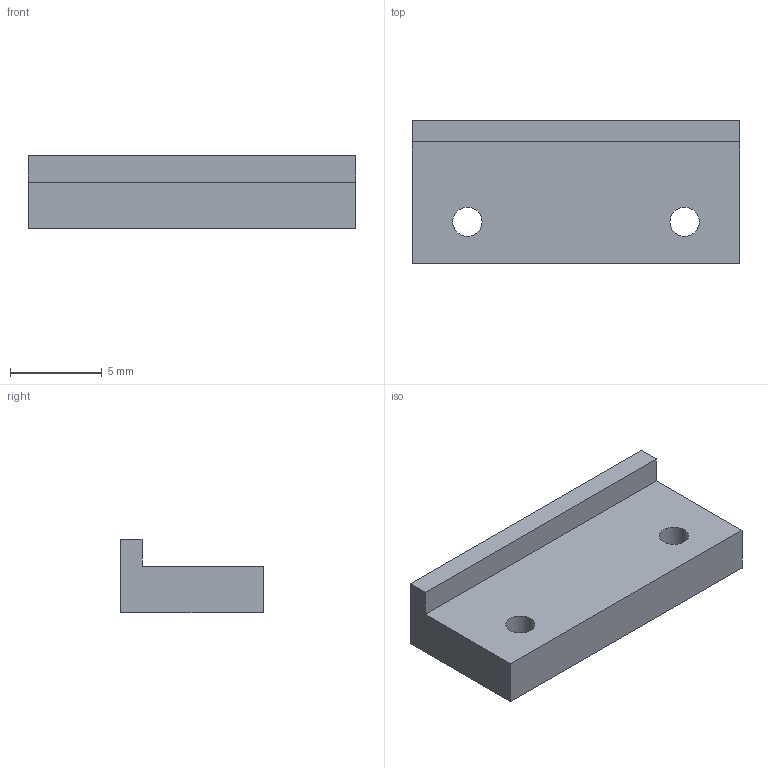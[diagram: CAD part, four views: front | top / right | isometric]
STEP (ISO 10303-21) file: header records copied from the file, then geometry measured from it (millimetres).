
FILE_DESCRIPTION(/* description */ (''),/* implementation_level */ '2;1');
FILE_NAME(/* name */ 'C:\Users\johne\Desktop\Right Rail Section.stp',/* time_stamp */ '2019-03-17T18:53:42-05:00',/* author */ ('johne'),/* organization */ (''),/* preprocessor_version */ 'ST-DEVELOPER v16.13',/* originating_system */ 'Autodesk Inventor 2018',/* authorisation */ '');
FILE_SCHEMA (('AUTOMOTIVE_DESIGN { 1 0 10303 214 3 1 1 }'));
Length unit declared in the file: millimetre
Products named in the file (1): Right Rail Section
Bounding box: 17.87 x 7.78 x 4 mm (x, y, z)
Volume: 372.7 mm3; surface area: 481.3 mm2
Topology: 1 solids, 1 shells, 10 faces, 24 edges, 16 vertices
Faces by surface type: plane 8, cylinder 2
Full cylindrical faces by diameter (mm): 1.6 x2
Entity records: 329 total; most frequent: CARTESIAN_POINT 49, DIRECTION 48, ORIENTED_EDGE 44, EDGE_CURVE 22, LINE 18, VECTOR 18, EDGE_LOOP 16, VERTEX_POINT 16
